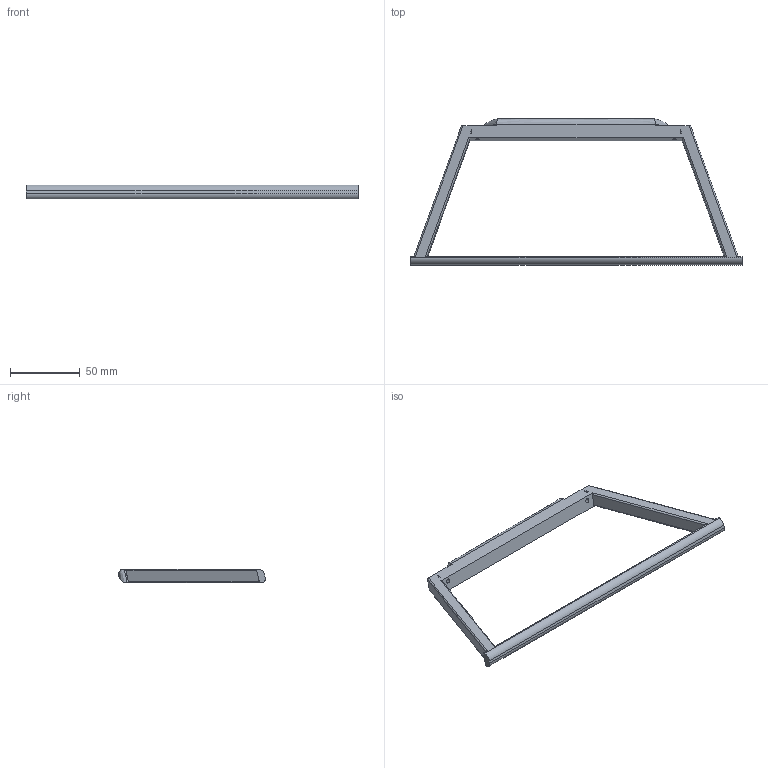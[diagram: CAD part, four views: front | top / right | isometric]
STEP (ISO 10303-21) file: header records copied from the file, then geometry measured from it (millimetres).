
FILE_DESCRIPTION(('FreeCAD Model'),'2;1');
FILE_NAME('Open CASCADE Shape Model','2026-08-20T12:12:59',('Author'),( ''),'Open CASCADE STEP processor 7.8','FreeCAD','Unknown');
FILE_SCHEMA(('AUTOMOTIVE_DESIGN { 1 0 10303 214 1 1 1 1 }'));
Length unit declared in the file: millimetre
Products named in the file (1): Legs For Testing - 12deg tilt, 3mm overlaegger holes, no chamfer
Bounding box: 238.4 x 105.38 x 10 mm (x, y, z)
Volume: 46647.8 mm3; surface area: 20357.4 mm2
Topology: 1 solids, 1 shells, 50 faces, 128 edges, 84 vertices
Faces by surface type: bspline 48, cylinder 2
Full cylindrical faces by diameter (mm): 3 x2
Entity records: 2615 total; most frequent: CARTESIAN_POINT 1810, ORIENTED_EDGE 256, EDGE_CURVE 128, B_SPLINE_CURVE_WITH_KNOTS 98, VERTEX_POINT 84, FACE_BOUND 60, EDGE_LOOP 60, ADVANCED_FACE 50
